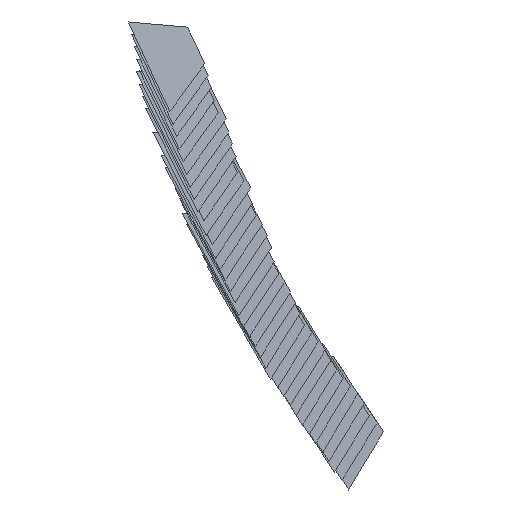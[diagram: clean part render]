
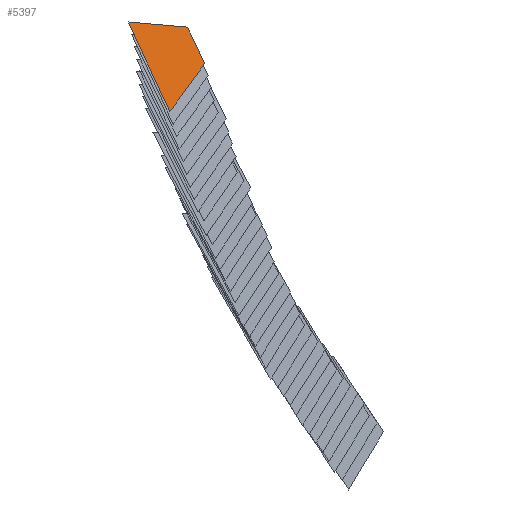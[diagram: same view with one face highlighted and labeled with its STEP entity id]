
A CAD part, front view. The second image highlights one B-rep face of the part: STEP entity #5397.
In plain terms, the highlighted free-form (B-spline) face has degree [1, 1] with [2, 2] control points.
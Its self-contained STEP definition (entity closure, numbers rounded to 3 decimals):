
#5397 = ADVANCED_FACE('',(#5398),#5411,.T.);
#5398 = FACE_BOUND('',#5399,.T.);
#5399 = EDGE_LOOP('',(#5400,#5421,#5435,#5449,#5463,#5477,#5491,#5505));
#5400 = ORIENTED_EDGE('',*,*,#5401,.T.);
#5401 = EDGE_CURVE('',#5402,#5404,#5406,.T.);
#5402 = VERTEX_POINT('',#5403);
#5403 = CARTESIAN_POINT('',(1075.379,-1674.851,
    1077.084));
#5404 = VERTEX_POINT('',#5405);
#5405 = CARTESIAN_POINT('',(1076.577,-1675.837,
    1074.468));
#5406 = SURFACE_CURVE('',#5407,(#5410),.PCURVE_S1.);
#5407 = B_SPLINE_CURVE_WITH_KNOTS('',1,(#5408,#5409),.UNSPECIFIED.,.F.,
  .F.,(2,2),(0.,3.041),.PIECEWISE_BEZIER_KNOTS.);
#5408 = CARTESIAN_POINT('',(1075.379,-1674.851,
    1077.084));
#5409 = CARTESIAN_POINT('',(1076.577,-1675.837,
    1074.468));
#5410 = PCURVE('',#5411,#5416);
#5411 = B_SPLINE_SURFACE_WITH_KNOTS('',1,1,(
    (#5412,#5413)
    ,(#5414,#5415
    )),.UNSPECIFIED.,.F.,.F.,.F.,(2,2),(2,2),(-2.931,
    4.522),(-3.162,3.546),
  .PIECEWISE_BEZIER_KNOTS.);
#5412 = CARTESIAN_POINT('',(1082.798,-1676.217,
    1074.911));
#5413 = CARTESIAN_POINT('',(1078.787,-1677.63,
    1069.723));
#5414 = CARTESIAN_POINT('',(1076.855,-1674.331,
    1078.992));
#5415 = CARTESIAN_POINT('',(1072.843,-1675.744,
    1073.804));
#5416 = DEFINITIONAL_REPRESENTATION('',(#5417),#5420);
#5417 = B_SPLINE_CURVE_WITH_KNOTS('',1,(#5418,#5419),.UNSPECIFIED.,.F.,
  .F.,(2,2),(0.,3.041),.PIECEWISE_BEZIER_KNOTS.);
#5418 = CARTESIAN_POINT('',(4.522,-0.694));
#5419 = CARTESIAN_POINT('',(1.884,0.82));
#5420 = ( GEOMETRIC_REPRESENTATION_CONTEXT(2) 
PARAMETRIC_REPRESENTATION_CONTEXT() REPRESENTATION_CONTEXT('2D SPACE',''
  ) );
#5421 = ORIENTED_EDGE('',*,*,#5422,.T.);
#5422 = EDGE_CURVE('',#5404,#5423,#5425,.T.);
#5423 = VERTEX_POINT('',#5424);
#5424 = CARTESIAN_POINT('',(1078.787,-1677.63,
    1069.723));
#5425 = SURFACE_CURVE('',#5426,(#5429),.PCURVE_S1.);
#5426 = B_SPLINE_CURVE_WITH_KNOTS('',1,(#5427,#5428),.UNSPECIFIED.,.F.,
  .F.,(2,2),(0.,5.533),.PIECEWISE_BEZIER_KNOTS.);
#5427 = CARTESIAN_POINT('',(1076.577,-1675.837,
    1074.468));
#5428 = CARTESIAN_POINT('',(1078.787,-1677.63,
    1069.723));
#5429 = PCURVE('',#5411,#5430);
#5430 = DEFINITIONAL_REPRESENTATION('',(#5431),#5434);
#5431 = B_SPLINE_CURVE_WITH_KNOTS('',1,(#5432,#5433),.UNSPECIFIED.,.F.,
  .F.,(2,2),(0.,5.533),.PIECEWISE_BEZIER_KNOTS.);
#5432 = CARTESIAN_POINT('',(1.884,0.82));
#5433 = CARTESIAN_POINT('',(-2.931,3.546));
#5434 = ( GEOMETRIC_REPRESENTATION_CONTEXT(2) 
PARAMETRIC_REPRESENTATION_CONTEXT() REPRESENTATION_CONTEXT('2D SPACE',''
  ) );
#5435 = ORIENTED_EDGE('',*,*,#5436,.T.);
#5436 = EDGE_CURVE('',#5423,#5437,#5439,.T.);
#5437 = VERTEX_POINT('',#5438);
#5438 = CARTESIAN_POINT('',(1079.553,-1677.338,
    1070.779));
#5439 = SURFACE_CURVE('',#5440,(#5443),.PCURVE_S1.);
#5440 = B_SPLINE_CURVE_WITH_KNOTS('',1,(#5441,#5442),.UNSPECIFIED.,.F.,
  .F.,(2,2),(0.,1.337),.PIECEWISE_BEZIER_KNOTS.);
#5441 = CARTESIAN_POINT('',(1078.787,-1677.63,
    1069.723));
#5442 = CARTESIAN_POINT('',(1079.553,-1677.338,
    1070.779));
#5443 = PCURVE('',#5411,#5444);
#5444 = DEFINITIONAL_REPRESENTATION('',(#5445),#5448);
#5445 = B_SPLINE_CURVE_WITH_KNOTS('',1,(#5446,#5447),.UNSPECIFIED.,.F.,
  .F.,(2,2),(0.,1.337),.PIECEWISE_BEZIER_KNOTS.);
#5446 = CARTESIAN_POINT('',(-2.931,3.546));
#5447 = CARTESIAN_POINT('',(-2.889,2.21));
#5448 = ( GEOMETRIC_REPRESENTATION_CONTEXT(2) 
PARAMETRIC_REPRESENTATION_CONTEXT() REPRESENTATION_CONTEXT('2D SPACE',''
  ) );
#5449 = ORIENTED_EDGE('',*,*,#5450,.T.);
#5450 = EDGE_CURVE('',#5437,#5451,#5453,.T.);
#5451 = VERTEX_POINT('',#5452);
#5452 = CARTESIAN_POINT('',(1080.7,-1676.901,
    1072.359));
#5453 = SURFACE_CURVE('',#5454,(#5457),.PCURVE_S1.);
#5454 = B_SPLINE_CURVE_WITH_KNOTS('',1,(#5455,#5456),.UNSPECIFIED.,.F.,
  .F.,(2,2),(0.,2.001),.PIECEWISE_BEZIER_KNOTS.);
#5455 = CARTESIAN_POINT('',(1079.553,-1677.338,
    1070.779));
#5456 = CARTESIAN_POINT('',(1080.7,-1676.901,
    1072.359));
#5457 = PCURVE('',#5411,#5458);
#5458 = DEFINITIONAL_REPRESENTATION('',(#5459),#5462);
#5459 = B_SPLINE_CURVE_WITH_KNOTS('',1,(#5460,#5461),.UNSPECIFIED.,.F.,
  .F.,(2,2),(0.,2.001),.PIECEWISE_BEZIER_KNOTS.);
#5460 = CARTESIAN_POINT('',(-2.889,2.21));
#5461 = CARTESIAN_POINT('',(-2.828,0.209));
#5462 = ( GEOMETRIC_REPRESENTATION_CONTEXT(2) 
PARAMETRIC_REPRESENTATION_CONTEXT() REPRESENTATION_CONTEXT('2D SPACE',''
  ) );
#5463 = ORIENTED_EDGE('',*,*,#5464,.T.);
#5464 = EDGE_CURVE('',#5451,#5465,#5467,.T.);
#5465 = VERTEX_POINT('',#5466);
#5466 = CARTESIAN_POINT('',(1081.645,-1676.542,
    1073.659));
#5467 = SURFACE_CURVE('',#5468,(#5471),.PCURVE_S1.);
#5468 = B_SPLINE_CURVE_WITH_KNOTS('',1,(#5469,#5470),.UNSPECIFIED.,.F.,
  .F.,(2,2),(0.,1.647),.PIECEWISE_BEZIER_KNOTS.);
#5469 = CARTESIAN_POINT('',(1080.7,-1676.901,
    1072.359));
#5470 = CARTESIAN_POINT('',(1081.645,-1676.542,
    1073.659));
#5471 = PCURVE('',#5411,#5472);
#5472 = DEFINITIONAL_REPRESENTATION('',(#5473),#5476);
#5473 = B_SPLINE_CURVE_WITH_KNOTS('',1,(#5474,#5475),.UNSPECIFIED.,.F.,
  .F.,(2,2),(0.,1.647),.PIECEWISE_BEZIER_KNOTS.);
#5474 = CARTESIAN_POINT('',(-2.828,0.209));
#5475 = CARTESIAN_POINT('',(-2.778,-1.436));
#5476 = ( GEOMETRIC_REPRESENTATION_CONTEXT(2) 
PARAMETRIC_REPRESENTATION_CONTEXT() REPRESENTATION_CONTEXT('2D SPACE',''
  ) );
#5477 = ORIENTED_EDGE('',*,*,#5478,.T.);
#5478 = EDGE_CURVE('',#5465,#5479,#5481,.T.);
#5479 = VERTEX_POINT('',#5480);
#5480 = CARTESIAN_POINT('',(1080.473,-1675.592,
    1076.175));
#5481 = SURFACE_CURVE('',#5482,(#5485),.PCURVE_S1.);
#5482 = B_SPLINE_CURVE_WITH_KNOTS('',1,(#5483,#5484),.UNSPECIFIED.,.F.,
  .F.,(2,2),(0.,2.933),.PIECEWISE_BEZIER_KNOTS.);
#5483 = CARTESIAN_POINT('',(1081.645,-1676.542,
    1073.659));
#5484 = CARTESIAN_POINT('',(1080.473,-1675.592,
    1076.175));
#5485 = PCURVE('',#5411,#5486);
#5486 = DEFINITIONAL_REPRESENTATION('',(#5487),#5490);
#5487 = B_SPLINE_CURVE_WITH_KNOTS('',1,(#5488,#5489),.UNSPECIFIED.,.F.,
  .F.,(2,2),(0.,2.933),.PIECEWISE_BEZIER_KNOTS.);
#5488 = CARTESIAN_POINT('',(-2.778,-1.436));
#5489 = CARTESIAN_POINT('',(-0.226,-2.881));
#5490 = ( GEOMETRIC_REPRESENTATION_CONTEXT(2) 
PARAMETRIC_REPRESENTATION_CONTEXT() REPRESENTATION_CONTEXT('2D SPACE',''
  ) );
#5491 = ORIENTED_EDGE('',*,*,#5492,.T.);
#5492 = EDGE_CURVE('',#5479,#5493,#5495,.T.);
#5493 = VERTEX_POINT('',#5494);
#5494 = CARTESIAN_POINT('',(1080.251,-1675.408,
    1076.66));
#5495 = SURFACE_CURVE('',#5496,(#5499),.PCURVE_S1.);
#5496 = B_SPLINE_CURVE_WITH_KNOTS('',1,(#5497,#5498),.UNSPECIFIED.,.F.,
  .F.,(2,2),(0.,0.565),.PIECEWISE_BEZIER_KNOTS.);
#5497 = CARTESIAN_POINT('',(1080.473,-1675.592,
    1076.175));
#5498 = CARTESIAN_POINT('',(1080.251,-1675.408,
    1076.66));
#5499 = PCURVE('',#5411,#5500);
#5500 = DEFINITIONAL_REPRESENTATION('',(#5501),#5504);
#5501 = B_SPLINE_CURVE_WITH_KNOTS('',1,(#5502,#5503),.UNSPECIFIED.,.F.,
  .F.,(2,2),(0.,0.565),.PIECEWISE_BEZIER_KNOTS.);
#5502 = CARTESIAN_POINT('',(-0.226,-2.881));
#5503 = CARTESIAN_POINT('',(0.264,-3.162));
#5504 = ( GEOMETRIC_REPRESENTATION_CONTEXT(2) 
PARAMETRIC_REPRESENTATION_CONTEXT() REPRESENTATION_CONTEXT('2D SPACE',''
  ) );
#5505 = ORIENTED_EDGE('',*,*,#5506,.T.);
#5506 = EDGE_CURVE('',#5493,#5402,#5507,.T.);
#5507 = SURFACE_CURVE('',#5508,(#5511),.PCURVE_S1.);
#5508 = B_SPLINE_CURVE_WITH_KNOTS('',1,(#5509,#5510),.UNSPECIFIED.,.F.,
  .F.,(2,2),(0.,4.922),.PIECEWISE_BEZIER_KNOTS.);
#5509 = CARTESIAN_POINT('',(1080.251,-1675.408,
    1076.66));
#5510 = CARTESIAN_POINT('',(1075.379,-1674.851,
    1077.084));
#5511 = PCURVE('',#5411,#5512);
#5512 = DEFINITIONAL_REPRESENTATION('',(#5513),#5516);
#5513 = B_SPLINE_CURVE_WITH_KNOTS('',1,(#5514,#5515),.UNSPECIFIED.,.F.,
  .F.,(2,2),(0.,4.922),.PIECEWISE_BEZIER_KNOTS.);
#5514 = CARTESIAN_POINT('',(0.264,-3.162));
#5515 = CARTESIAN_POINT('',(4.522,-0.694));
#5516 = ( GEOMETRIC_REPRESENTATION_CONTEXT(2) 
PARAMETRIC_REPRESENTATION_CONTEXT() REPRESENTATION_CONTEXT('2D SPACE',''
  ) );
